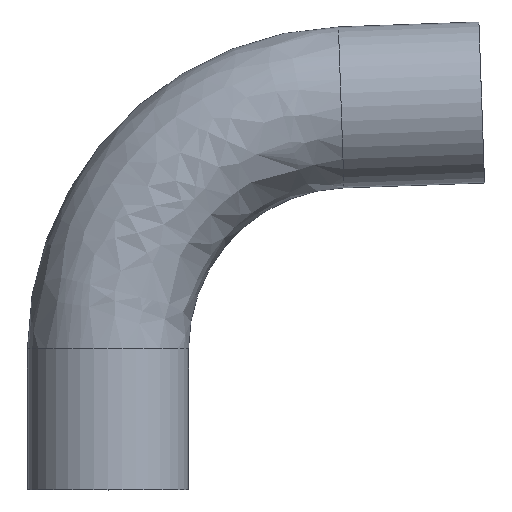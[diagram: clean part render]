
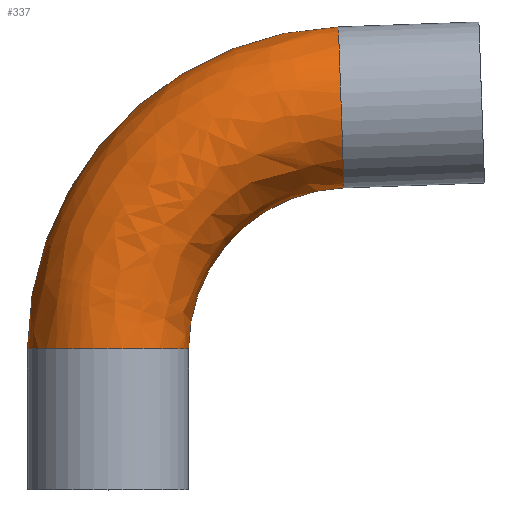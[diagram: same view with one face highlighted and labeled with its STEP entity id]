
A CAD part, top view. The second image highlights one B-rep face of the part: STEP entity #337.
In plain terms, the highlighted free-form (B-spline) face has degree [3, 3] with [4, 4] control points.
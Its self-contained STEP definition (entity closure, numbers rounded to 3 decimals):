
#1 = CARTESIAN_POINT ( 'NONE',  ( 25.4, 73.41, 0. ) ) ;
#5 = CARTESIAN_POINT ( 'NONE',  ( 0., 44.469, 0. ) ) ;
#12 = ORIENTED_EDGE ( 'NONE', *, *, #71, .T. ) ;
#29 = DIRECTION ( 'NONE',  ( 0., 0., -1. ) ) ;
#39 = AXIS2_PLACEMENT_3D ( 'NONE', #5, #40, #299 ) ;
#40 = DIRECTION ( 'NONE',  ( 0., 1., 0. ) ) ;
#43 = CIRCLE ( 'NONE', #320, 50.8 ) ;
#71 = EDGE_CURVE ( 'NONE', #173, #283, #458, .T. ) ;
#74 = CARTESIAN_POINT ( 'NONE',  ( -25.4, 44.469, 50.8 ) ) ;
#76 = CARTESIAN_POINT ( 'NONE',  ( 72.654, 146.007, 0. ) ) ;
#92 = AXIS2_PLACEMENT_3D ( 'NONE', #459, #29, #415 ) ;
#112 = CARTESIAN_POINT ( 'NONE',  ( 14.808, 143.987, 50.8 ) ) ;
#154 = CIRCLE ( 'NONE', #92, 101.6 ) ;
#155 = VERTEX_POINT ( 'NONE', #327 ) ;
#164 = CARTESIAN_POINT ( 'NONE',  ( 45.504, 94.228, 0. ) ) ;
#173 = VERTEX_POINT ( 'NONE', #462 ) ;
#194 = ORIENTED_EDGE ( 'NONE', *, *, #465, .T. ) ;
#199 = CARTESIAN_POINT ( 'NONE',  ( 25.4, 44.469, 0. ) ) ;
#200 = EDGE_LOOP ( 'NONE', ( #353, #194, #12, #377 ) ) ;
#203 = CARTESIAN_POINT ( 'NONE',  ( -25.4, 102.35, 0. ) ) ;
#226 = CARTESIAN_POINT ( 'NONE',  ( 45.504, 94.228, 50.8 ) ) ;
#228 = CARTESIAN_POINT ( 'NONE',  ( -25.4, 102.35, 50.8 ) ) ;
#246 = FACE_OUTER_BOUND ( 'NONE', #200, .T. ) ;
#251 = CARTESIAN_POINT ( 'NONE',  ( 25.4, 44.469, 50.8 ) ) ;
#254 = DIRECTION ( 'NONE',  ( -0.999, -0.035, 0. ) ) ;
#260 = CARTESIAN_POINT ( 'NONE',  ( 73.541, 120.622, 0. ) ) ;
#267 = DIRECTION ( 'NONE',  ( 0., 0., -1. ) ) ;
#272 = VERTEX_POINT ( 'NONE', #359 ) ;
#274 = CARTESIAN_POINT ( 'NONE',  ( 72.654, 146.007, 50.8 ) ) ;
#281 = EDGE_CURVE ( 'NONE', #155, #272, #446, .T. ) ;
#283 = VERTEX_POINT ( 'NONE', #416 ) ;
#286 = DIRECTION ( 'NONE',  ( -1., 0., 0. ) ) ;
#292 = EDGE_CURVE ( 'NONE', #155, #283, #154, .T. ) ;
#299 = DIRECTION ( 'NONE',  ( -1., 0., 0. ) ) ;
#307 =( BOUNDED_SURFACE ( )  B_SPLINE_SURFACE ( 3, 3, ( 
 ( #434, #203, #464, #76 ),
 ( #74, #228, #112, #274 ),
 ( #251, #420, #226, #402 ),
 ( #199, #1, #164, #450 ) ),
 .UNSPECIFIED., .F., .F., .T. ) 
 B_SPLINE_SURFACE_WITH_KNOTS ( ( 4, 4 ),
 ( 4, 4 ),
 ( 0., 1. ),
 ( 0., 1. ),
 .UNSPECIFIED. ) 
 GEOMETRIC_REPRESENTATION_ITEM ( )  RATIONAL_B_SPLINE_SURFACE ( (
 ( 1., 0.813, 0.813, 1.),
 ( 0.333, 0.271, 0.271, 0.333),
 ( 0.333, 0.271, 0.271, 0.333),
 ( 1., 0.813, 0.813, 1.) ) ) 
 REPRESENTATION_ITEM ( '' )  SURFACE ( )  );
#320 = AXIS2_PLACEMENT_3D ( 'NONE', #407, #267, #286 ) ;
#327 = CARTESIAN_POINT ( 'NONE',  ( -25.4, 44.469, 0. ) ) ;
#337 = ADVANCED_FACE ( 'NONE', ( #246 ), #307, .T. ) ;
#344 = AXIS2_PLACEMENT_3D ( 'NONE', #260, #254, #437 ) ;
#353 = ORIENTED_EDGE ( 'NONE', *, *, #281, .T. ) ;
#359 = CARTESIAN_POINT ( 'NONE',  ( 25.4, 44.469, 0. ) ) ;
#377 = ORIENTED_EDGE ( 'NONE', *, *, #292, .F. ) ;
#402 = CARTESIAN_POINT ( 'NONE',  ( 74.427, 95.238, 50.8 ) ) ;
#407 = CARTESIAN_POINT ( 'NONE',  ( 76.2, 44.469, 0. ) ) ;
#415 = DIRECTION ( 'NONE',  ( -1., 0., 0. ) ) ;
#416 = CARTESIAN_POINT ( 'NONE',  ( 72.654, 146.007, 0. ) ) ;
#420 = CARTESIAN_POINT ( 'NONE',  ( 25.4, 73.41, 50.8 ) ) ;
#434 = CARTESIAN_POINT ( 'NONE',  ( -25.4, 44.469, 0. ) ) ;
#437 = DIRECTION ( 'NONE',  ( -0.035, 0.999, 0. ) ) ;
#446 = CIRCLE ( 'NONE', #39, 25.4 ) ;
#450 = CARTESIAN_POINT ( 'NONE',  ( 74.427, 95.238, 0. ) ) ;
#458 = CIRCLE ( 'NONE', #344, 25.4 ) ;
#459 = CARTESIAN_POINT ( 'NONE',  ( 76.2, 44.469, 0. ) ) ;
#462 = CARTESIAN_POINT ( 'NONE',  ( 74.427, 95.238, 0. ) ) ;
#464 = CARTESIAN_POINT ( 'NONE',  ( 14.808, 143.987, 0. ) ) ;
#465 = EDGE_CURVE ( 'NONE', #272, #173, #43, .T. ) ;
